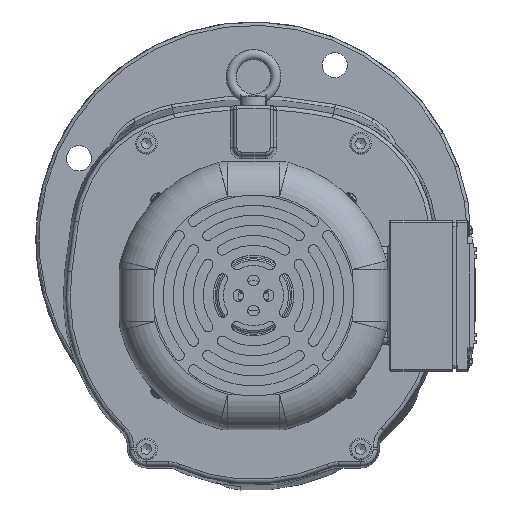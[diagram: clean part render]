
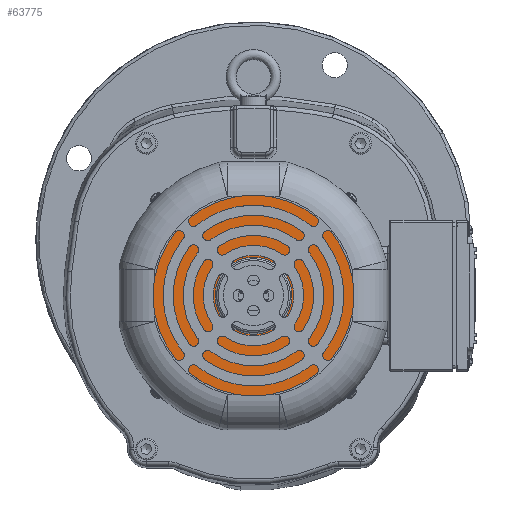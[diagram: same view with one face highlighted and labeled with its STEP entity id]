
A CAD part, top view. The second image highlights one B-rep face of the part: STEP entity #63775.
In plain terms, the highlighted planar face has unit normal (0, 0, 1).
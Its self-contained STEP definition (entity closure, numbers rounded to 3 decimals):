
#7713=FACE_BOUND('',#16157,.T.);
#8651=PLANE('',#70059);
#12243=FACE_OUTER_BOUND('',#16156,.T.);
#16156=EDGE_LOOP('',(#54082));
#16157=EDGE_LOOP('',(#54083));
#19921=CIRCLE('',#70042,23.);
#19934=CIRCLE('',#70060,63.);
#27787=VERTEX_POINT('',#147622);
#27797=VERTEX_POINT('',#147651);
#36656=EDGE_CURVE('',#27787,#27787,#19921,.T.);
#36670=EDGE_CURVE('',#27797,#27797,#19934,.T.);
#54082=ORIENTED_EDGE('',*,*,#36670,.F.);
#54083=ORIENTED_EDGE('',*,*,#36656,.F.);
#63775=ADVANCED_FACE('',(#12243,#7713),#8651,.T.);
#70042=AXIS2_PLACEMENT_3D('',#147623,#85000,#85001);
#70059=AXIS2_PLACEMENT_3D('',#147650,#85035,#85036);
#70060=AXIS2_PLACEMENT_3D('',#147652,#85037,#85038);
#85000=DIRECTION('center_axis',(0.,0.,
1.));
#85001=DIRECTION('ref_axis',(-0.707,-0.707,0.));
#85035=DIRECTION('center_axis',(0.,0.,
1.));
#85036=DIRECTION('ref_axis',(0.707,-0.707,0.));
#85037=DIRECTION('center_axis',(0.,0.,
-1.));
#85038=DIRECTION('ref_axis',(-0.707,-0.707,0.));
#147622=CARTESIAN_POINT('',(-20.095,-8.096,297.25));
#147623=CARTESIAN_POINT('Origin',(-3.831,-24.359,297.25));
#147650=CARTESIAN_POINT('Origin',(11.725,-8.803,297.25));
#147651=CARTESIAN_POINT('',(-48.379,20.189,297.25));
#147652=CARTESIAN_POINT('Origin',(-3.831,-24.359,297.25));
